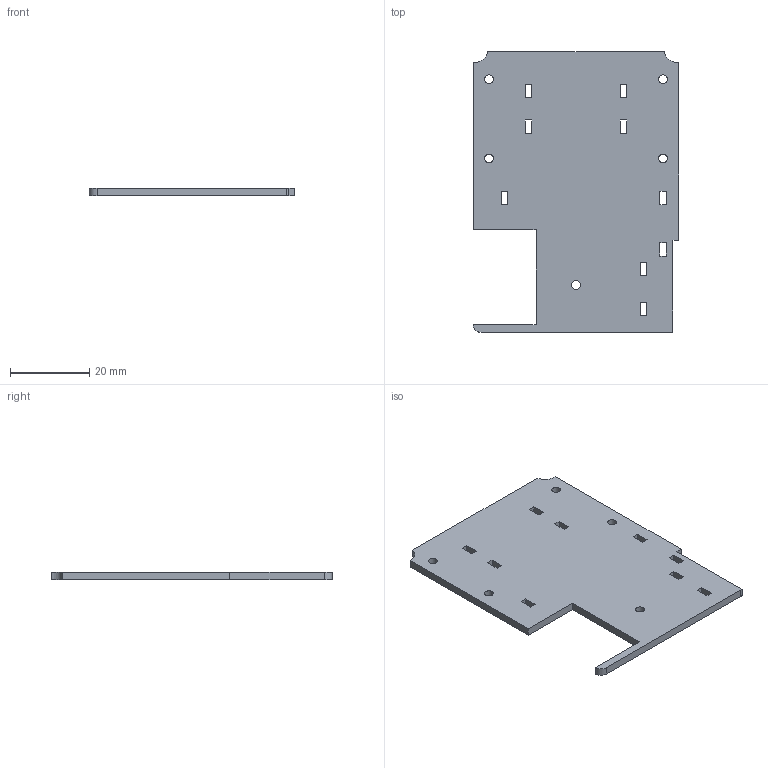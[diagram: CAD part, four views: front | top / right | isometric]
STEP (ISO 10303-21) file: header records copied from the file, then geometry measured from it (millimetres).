
FILE_DESCRIPTION(('Open CASCADE Model'),'2;1');
FILE_NAME('Open CASCADE Shape Model','2026-11-09T21:30:06',('Author'),( 'Open CASCADE'),'Open CASCADE STEP processor 8.0','Open CASCADE 8.0' ,'Unknown');
FILE_SCHEMA(('AUTOMOTIVE_DESIGN { 1 0 10303 214 1 1 1 1 }'));
Length unit declared in the file: millimetre
Products named in the file (1): Open CASCADE STEP translator 8.0 3
Bounding box: 52 x 71 x 2 mm (x, y, z)
Volume: 6381.1 mm3; surface area: 7178.3 mm2
Topology: 1 solids, 1 shells, 56 faces, 162 edges, 108 vertices
Faces by surface type: plane 47, cylinder 9
Full cylindrical faces by diameter (mm): 2.2 x5
Entity records: 3818 total; most frequent: CARTESIAN_POINT 829, DIRECTION 440, ORIENTED_EDGE 324, PCURVE 324, DEFINITIONAL_REPRESENTATION 324, LINE 272, VECTOR 272, B_SPLINE_CURVE_WITH_KNOTS 178
